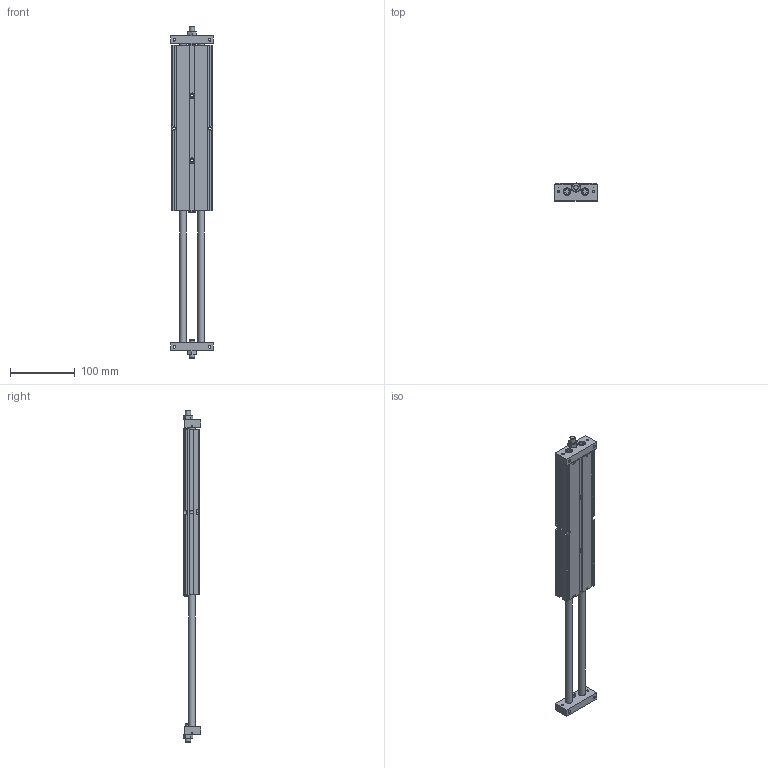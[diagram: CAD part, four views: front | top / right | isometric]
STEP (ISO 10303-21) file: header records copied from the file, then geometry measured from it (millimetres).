
FILE_DESCRIPTION((''),'2;1');
FILE_NAME('I:\3D電子目錄\氣缸\STU\STU\STU20\STU20x200.stp','2007-10-01T10:39:10',('Administrator'),(''),'Autodesk Inventor 11','Autodesk Inventor 11','');
FILE_SCHEMA(('AUTOMOTIVE_DESIGN { 1 0 10303 214 1 1 1 1 }'));
Length unit declared in the file: millimetre
Products named in the file (1): STU20
Bounding box: 66 x 27.51 x 511.5 mm (x, y, z)
Volume: 419305.3 mm3; surface area: 95146 mm2
Topology: 1 solids, 1 shells, 345 faces, 855 edges, 543 vertices
Faces by surface type: plane 166, cone 75, bspline 71, cylinder 29, torus 4
Full cylindrical faces by diameter (mm): 2.459 x2, 8 x6, 10 x6, 11 x4, 22 x2, 23.2 x2
Entity records: 10978 total; most frequent: CARTESIAN_POINT 3643, ORIENTED_EDGE 1470, DIRECTION 1388, EDGE_CURVE 735, EDGE_LOOP 520, VERTEX_POINT 519, AXIS2_PLACEMENT_3D 510, VECTOR 368
